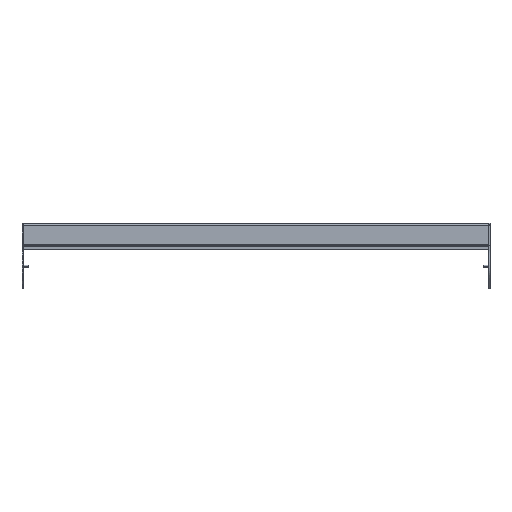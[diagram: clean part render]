
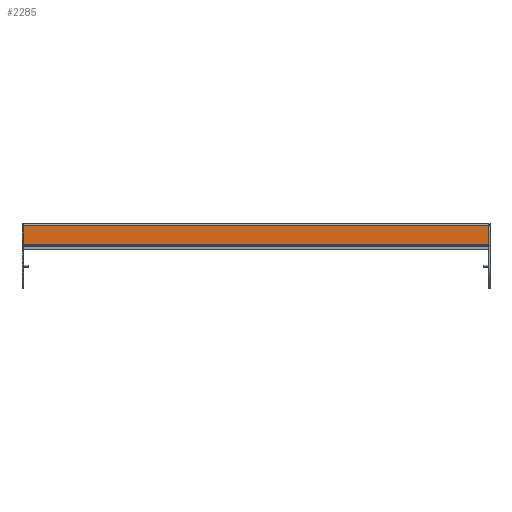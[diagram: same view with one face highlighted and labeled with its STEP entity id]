
A CAD part, top view. The second image highlights one B-rep face of the part: STEP entity #2285.
In plain terms, the highlighted planar face has unit normal (0, 0, 1) as drawn and (1, 0, 0) by its records, which use the part's own axes.
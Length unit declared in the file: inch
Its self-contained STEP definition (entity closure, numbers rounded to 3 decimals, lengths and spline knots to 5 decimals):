
#197=DIRECTION('',(0.,1.,0.));
#198=VECTOR('',#197,1.81445);
#199=CARTESIAN_POINT('',(0.683,-0.84545,-22.118));
#200=LINE('',#199,#198);
#303=DIRECTION('',(0.,1.,0.));
#304=VECTOR('',#303,1.81445);
#305=CARTESIAN_POINT('',(0.683,-0.84545,22.118));
#306=LINE('',#305,#304);
#646=DIRECTION('',(0.,0.,1.));
#647=VECTOR('',#646,44.236);
#648=CARTESIAN_POINT('',(0.683,0.969,-22.118));
#649=LINE('',#648,#647);
#659=DIRECTION('',(0.,0.,-1.));
#660=VECTOR('',#659,44.236);
#661=CARTESIAN_POINT('',(0.683,-0.84545,22.118));
#662=LINE('',#661,#660);
#1270=CARTESIAN_POINT('',(0.683,-0.84545,-22.118));
#1271=CARTESIAN_POINT('',(0.683,0.969,-22.118));
#1272=VERTEX_POINT('',#1270);
#1273=VERTEX_POINT('',#1271);
#1274=CARTESIAN_POINT('',(0.683,-0.84545,22.118));
#1275=CARTESIAN_POINT('',(0.683,0.969,22.118));
#1276=VERTEX_POINT('',#1274);
#1277=VERTEX_POINT('',#1275);
#2273=CARTESIAN_POINT('',(0.683,-0.86334,-22.118));
#2274=DIRECTION('',(1.,0.,0.));
#2275=DIRECTION('',(0.,1.,0.));
#2276=AXIS2_PLACEMENT_3D('',#2273,#2274,#2275);
#2277=PLANE('',#2276);
#2278=ORIENTED_EDGE('',*,*,#1631,.F.);
#2280=ORIENTED_EDGE('',*,*,#2279,.F.);
#2281=ORIENTED_EDGE('',*,*,#1734,.T.);
#2282=ORIENTED_EDGE('',*,*,#2266,.F.);
#2283=EDGE_LOOP('',(#2278,#2280,#2281,#2282));
#2284=FACE_OUTER_BOUND('',#2283,.F.);
#1631=EDGE_CURVE('',#1272,#1273,#200,.T.);
#1734=EDGE_CURVE('',#1276,#1277,#306,.T.);
#2266=EDGE_CURVE('',#1273,#1277,#649,.T.);
#2279=EDGE_CURVE('',#1276,#1272,#662,.T.);
#2285=ADVANCED_FACE('',(#2284),#2277,.T.);
